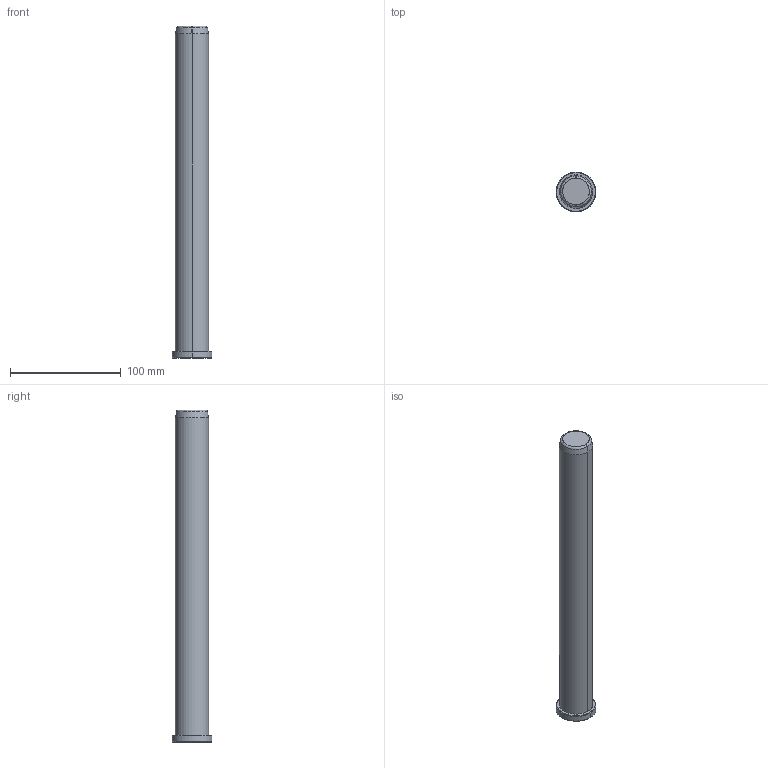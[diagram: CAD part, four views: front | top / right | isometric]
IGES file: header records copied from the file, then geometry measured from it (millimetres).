
Start section: START RECORD GO HERE.
Global section: file name: B81830300.igs; native system: DASSAULT SYSTEMES CATIA V5 R20 - www.3ds.com; preprocessor: CATIA Version 5 Release 20 ; author: Utente; organization: NB04-ASUS; date: 20200419.172527; units: millimetre
Bounding box: 36 x 36 x 300 mm (x, y, z)
Surface area: 30177.2 mm2 (no closed solid volume)
Topology: 0 solids, 0 shells, 17 faces, 68 edges, 68 vertices
Faces by surface type: revolution 14, plane 3
